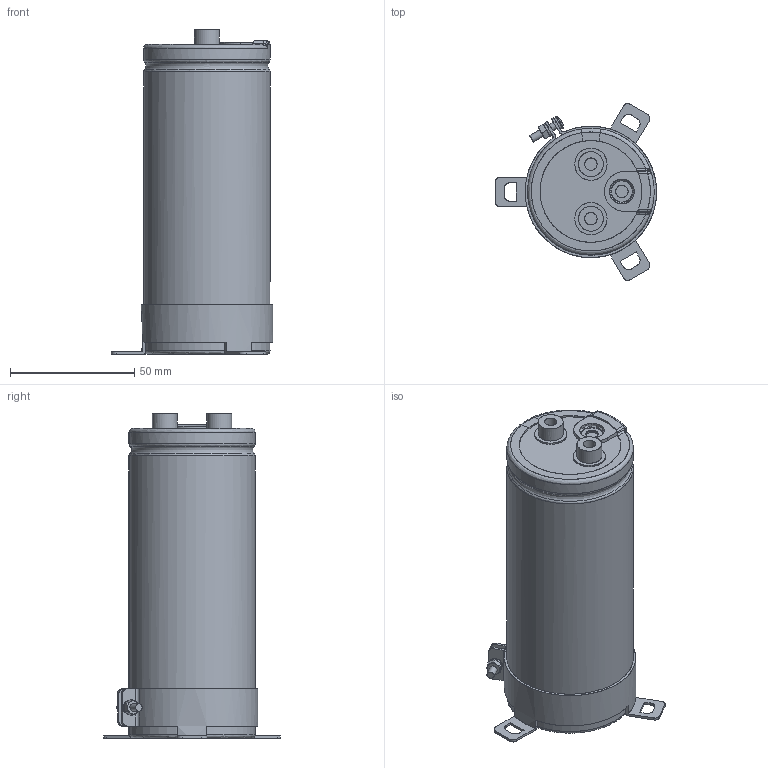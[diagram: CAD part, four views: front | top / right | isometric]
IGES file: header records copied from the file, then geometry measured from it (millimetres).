
Start section: JAMA-IS VERSION  1.0
Bounding box: 65 x 71.22 x 131 mm (x, y, z)
Surface area: 74337.5 mm2 (no closed solid volume)
Topology: 0 solids, 0 shells, 298 faces, 4625 edges, 4595 vertices
Faces by surface type: bspline 298
